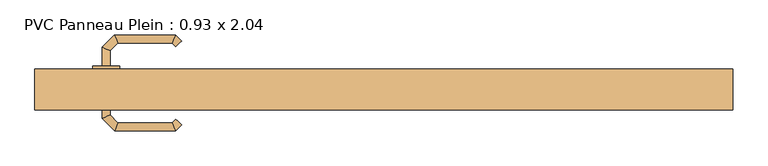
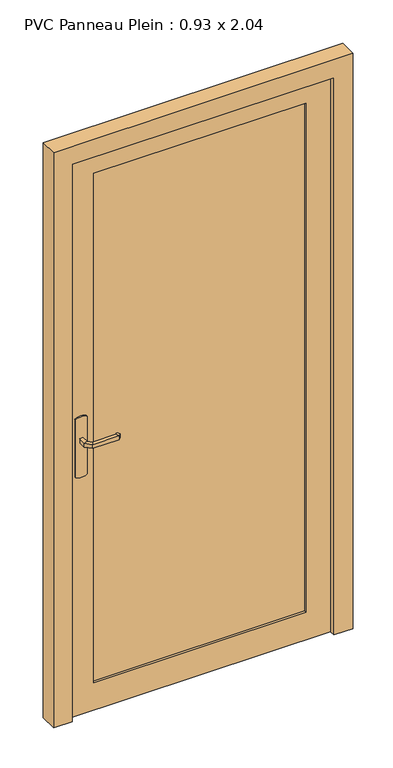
"""IFC4 building model written with IfcOpenShell, lengths in millimetres: door geometry, PVC Panneau Plein : 0.93 x 2.04."""

import ifcopenshell
import ifcopenshell.guid

model = None  # the IFC model being written
_history = None  # IfcOwnerHistory: only IFC2X3 demands one
_inside = {}  # id of a spatial element -> (the spatial element, [elements in it])
_under = {}  # id of a project, library or spatial element -> (it, [spatial elements below it])
_declared = {}  # id of a project -> (the project, [libraries it declares])
_typed = {}  # id of a type object -> (the type object, [elements of that type])
_made_of = {}  # id of a material, layer set ... -> (it, [elements and type objects made of it])


def new_model(schema):
    """Start an empty IFC model of exactly this schema.

    Asked for "IFC4X3", IfcOpenShell would pick the latest addendum, in which some entities
    have other attributes; the version numbers below select the first issue.
    IFC2X3 requires an IfcOwnerHistory on every rooted entity: one is made here for all.
    """
    global model, _history
    if schema == "IFC4X3":
        model = ifcopenshell.file(schema_version=(4, 3, 0, 0))
    else:
        model = ifcopenshell.file(schema=schema)
    _inside.clear()
    _under.clear()
    _declared.clear()
    _typed.clear()
    _made_of.clear()
    _history = None
    if model.schema == "IFC2X3":
        org = make("IfcOrganization", Name="unknown")
        user = make(
            "IfcPersonAndOrganization",
            ThePerson=make("IfcPerson", FamilyName="unknown"),
            TheOrganization=org,
        )
        app = make(
            "IfcApplication",
            ApplicationDeveloper=org,
            Version="unknown",
            ApplicationFullName="unknown",
            ApplicationIdentifier="unknown",
        )
        _history = make(
            "IfcOwnerHistory",
            OwningUser=user,
            OwningApplication=app,
            ChangeAction="ADDED",
            CreationDate=0,
        )
    return model


def make(cls, **values):
    """One entity of the class cls with the attributes given. An attribute that is None is left unset."""
    return model.create_entity(
        cls, **{name: value for name, value in values.items() if value is not None}
    )


def rooted(cls, **values):
    """An entity with a GlobalId (a new one), such as an element, a storey or a relation."""
    return make(cls, GlobalId=ifcopenshell.guid.new(), OwnerHistory=_history, **values)


def si_unit(unit_type, name, prefix=None):
    """IfcSIUnit, for example si_unit("LENGTHUNIT", "METRE", prefix="MILLI")."""
    return make("IfcSIUnit", UnitType=unit_type, Prefix=prefix, Name=name)


def assignment(units):
    """IfcUnitAssignment: the units of a project."""
    return None if units is None else make("IfcUnitAssignment", Units=units)


def point(xyz):
    """IfcCartesianPoint."""
    return None if xyz is None else make("IfcCartesianPoint", Coordinates=xyz)


def direction(xyz):
    """IfcDirection."""
    return None if xyz is None else make("IfcDirection", DirectionRatios=xyz)


def frame(location, z_axis=None, x_axis=None):
    """IfcAxis2Placement3D, a coordinate frame: its origin and axes. An axis left out is left unset."""
    return make(
        "IfcAxis2Placement3D",
        Location=point(location),
        Axis=direction(z_axis),
        RefDirection=direction(x_axis),
    )


def frame_2d(location, x_axis=None):
    """IfcAxis2Placement2D, a coordinate frame in the plane: its origin and x axis."""
    return make(
        "IfcAxis2Placement2D", Location=point(location), RefDirection=direction(x_axis)
    )


def origin():
    """The frame at (0, 0, 0) with its axes left unset."""
    return frame((0.0, 0.0, 0.0))


def place(relative_to, where):
    """IfcLocalPlacement: puts the frame where relative to a parent placement (None: the world)."""
    return make(
        "IfcLocalPlacement", PlacementRelTo=relative_to, RelativePlacement=where
    )


def context(
    kind, dimensions, precision=None, world=None, true_north=None, identifier=None
):
    """IfcGeometricRepresentationContext, for example the 3D "Model" context."""
    return make(
        "IfcGeometricRepresentationContext",
        ContextIdentifier=identifier,
        ContextType=kind,
        CoordinateSpaceDimension=dimensions,
        Precision=precision,
        WorldCoordinateSystem=world,
        TrueNorth=true_north,
    )


def project(units=None, contexts=None):
    """IfcProject with its units and contexts."""
    return rooted(
        "IfcProject",
        Name="project",
        RepresentationContexts=contexts,
        UnitsInContext=assignment(units),
    )


def spatial(cls, under=None, at=None, **own):
    """A site, building, storey or space (cls), placed at a placement, below another one or the project."""
    s = rooted(cls, ObjectPlacement=at, **own)
    if under is not None:
        _under.setdefault(under.id(), (under, []))[1].append(s)
    return s


def polyline(points):
    """IfcPolyline through the points."""
    return make("IfcPolyline", Points=[point(p) for p in points])


def circle_curve(where, radius):
    """IfcCircle in the frame where."""
    return make("IfcCircle", Position=where, Radius=radius)


def ellipse_curve(where, semi_axis1, semi_axis2):
    """IfcEllipse in the frame where."""
    return make(
        "IfcEllipse", Position=where, SemiAxis1=semi_axis1, SemiAxis2=semi_axis2
    )


def trimmed(basis, trim1, trim2, sense, master):
    """IfcTrimmedCurve: the piece of a basis curve between two trims."""
    return make(
        "IfcTrimmedCurve",
        BasisCurve=basis,
        Trim1=trim1,
        Trim2=trim2,
        SenseAgreement=sense,
        MasterRepresentation=master,
    )


def segment(curve, same_sense, transition):
    """IfcCompositeCurveSegment."""
    return make(
        "IfcCompositeCurveSegment",
        Transition=transition,
        SameSense=same_sense,
        ParentCurve=curve,
    )


def composite_curve(segments, self_intersect=None):
    """IfcCompositeCurve: segments joined end to end."""
    return make("IfcCompositeCurve", Segments=segments, SelfIntersect=self_intersect)


def outline(outer, holes=None, kind="AREA"):
    """IfcArbitraryClosedProfileDef: a profile drawn as a closed curve; with holes, ...WithVoids."""
    if holes is None:
        return make("IfcArbitraryClosedProfileDef", ProfileType=kind, OuterCurve=outer)
    return make(
        "IfcArbitraryProfileDefWithVoids",
        ProfileType=kind,
        OuterCurve=outer,
        InnerCurves=holes,
    )


def extrude(swept, where, along, depth):
    """IfcExtrudedAreaSolid: the profile swept, set in the frame where, extruded along a direction by depth."""
    return make(
        "IfcExtrudedAreaSolid",
        SweptArea=swept,
        Position=where,
        ExtrudedDirection=direction(along),
        Depth=depth,
    )


def faces_of(points, faces, orient=None, outer=None):
    """IfcFace entities. A face is a list of loops; a loop is a list of indices into points, from 0.

    orient and outer hold one flag for each loop. By default every Orientation is true, the
    first loop of a face is its IfcFaceOuterBound and the others are IfcFaceBound.
    """
    made = []
    for i, loops in enumerate(faces):
        bounds = []
        for j, loop in enumerate(loops):
            is_outer = j == 0 if outer is None else outer[i][j]
            bounds.append(
                make(
                    "IfcFaceOuterBound" if is_outer else "IfcFaceBound",
                    Bound=make("IfcPolyLoop", Polygon=[points[k] for k in loop]),
                    Orientation=True if orient is None else orient[i][j],
                )
            )
        made.append(make("IfcFace", Bounds=bounds))
    return made


def faceted_brep(points, faces, orient=None, outer=None, voids=None):
    """IfcFacetedBrep: a solid bounded by flat faces; with voids (closed shells), ...WithVoids."""
    shared = [point(p) for p in points]
    hull = make("IfcClosedShell", CfsFaces=faces_of(shared, faces, orient, outer))
    if voids is None:
        return make("IfcFacetedBrep", Outer=hull)
    return make(
        "IfcFacetedBrepWithVoids",
        Outer=hull,
        Voids=[
            make(cls, CfsFaces=faces_of(shared, fs, o, b)) for cls, fs, o, b in voids
        ],
    )


def shape(context_of_items, identifier, shape_type, items):
    """IfcShapeRepresentation: the items that make up one representation, for example the "Body"."""
    return make(
        "IfcShapeRepresentation",
        ContextOfItems=context_of_items,
        RepresentationIdentifier=identifier,
        RepresentationType=shape_type,
        Items=items,
    )


def source(mapping_origin, context_of_items, identifier, shape_type, items):
    """IfcRepresentationMap: a shape defined once, which mapped items show again and again."""
    return make(
        "IfcRepresentationMap",
        MappingOrigin=mapping_origin,
        MappedRepresentation=shape(context_of_items, identifier, shape_type, items),
    )


def transform(
    local_origin,
    x_axis=None,
    y_axis=None,
    z_axis=None,
    scale=None,
    scale2=None,
    scale3=None,
    uniform=True,
):
    """IfcCartesianTransformationOperator3D, or its non-uniform kind. x_axis, y_axis, z_axis: its Axis1, 2, 3."""
    if uniform:
        return make(
            "IfcCartesianTransformationOperator3D",
            Axis1=direction(x_axis),
            Axis2=direction(y_axis),
            LocalOrigin=point(local_origin),
            Scale=scale,
            Axis3=direction(z_axis),
        )
    return make(
        "IfcCartesianTransformationOperator3DnonUniform",
        Axis1=direction(x_axis),
        Axis2=direction(y_axis),
        LocalOrigin=point(local_origin),
        Scale=scale,
        Axis3=direction(z_axis),
        Scale2=scale2,
        Scale3=scale3,
    )


def mapped(mapping_source, mapping_target):
    """IfcMappedItem: shows the shape of a source again, moved by a transform."""
    return make(
        "IfcMappedItem", MappingSource=mapping_source, MappingTarget=mapping_target
    )


def made_of(thing, what):
    """Note that an element or type object is made of a material, layer set ...; save() writes the relation."""
    if what is not None:
        _made_of.setdefault(what.id(), (what, []))[1].append(thing)
    return thing


def element(
    cls,
    number,
    at=None,
    inside=None,
    cuts=None,
    type_object=None,
    material=None,
    context=None,
    identifier="Body",
    shape_type=None,
    held_by="IfcProductDefinitionShape",
    body=None,
    shapes=None,
    **own,
):
    """One element of the class cls, such as IfcWall. Its Tag is "e" and its number.

    at: its placement. inside: the storey or other place that contains it. cuts: it is an
    opening in that element (IfcRelVoidsElement). A single representation is given by context,
    identifier, shape_type and body (its items); several are given by shapes. held_by: the class
    of the entity that holds the representations. save() writes the other relations.
    """
    e = rooted(cls, Tag="e%d" % number, ObjectPlacement=at, **own)
    if body is not None:
        shapes = [shape(context, identifier, shape_type, body)]
    if shapes is not None:
        e.Representation = make(held_by, Representations=shapes)
    if inside is not None:
        _inside.setdefault(inside.id(), (inside, []))[1].append(e)
    if cuts is not None:
        rooted(
            "IfcRelVoidsElement", RelatingBuildingElement=cuts, RelatedOpeningElement=e
        )
    if type_object is not None:
        _typed.setdefault(type_object.id(), (type_object, []))[1].append(e)
    return made_of(e, material)


def aggregate(whole, parts):
    """IfcRelAggregates: a whole, such as a stair, and the parts it consists of."""
    return rooted("IfcRelAggregates", RelatingObject=whole, RelatedObjects=parts)


def save(model, path):
    """Write the relations noted so far, then the file.

    IfcRelAggregates (storeys below a building ...), IfcRelContainedInSpatialStructure (elements
    in a storey), IfcRelDefinesByType, IfcRelAssociatesMaterial and IfcRelDeclares: one each for
    every whole, place, type object, material and project.
    """
    for whole, parts in _under.values():
        aggregate(whole, parts)
    for where, things in _inside.values():
        rooted(
            "IfcRelContainedInSpatialStructure",
            RelatedElements=things,
            RelatingStructure=where,
        )
    for kind, things in _typed.values():
        rooted("IfcRelDefinesByType", RelatedObjects=things, RelatingType=kind)
    for what, things in _made_of.values():
        rooted("IfcRelAssociatesMaterial", RelatedObjects=things, RelatingMaterial=what)
    for by, libraries in _declared.values():
        rooted("IfcRelDeclares", RelatingContext=by, RelatedDefinitions=libraries)
    model.write(path)


def plane_surface(at):
    """IfcPlane: the flat surface through the origin of the frame at, square to its z axis."""
    return make("IfcPlane", Position=at)


def cylinder_surface(at, radius):
    """IfcCylindricalSurface: all points at the distance radius from the z axis of the frame at."""
    return make("IfcCylindricalSurface", Position=at, Radius=radius)


def advanced_brep(points, edges, surfaces, faces):
    """IfcAdvancedBrep: a solid bounded by faces that lie on surfaces and meet in shared edges.

    An edge is (start, end): straight between two places in points (the first is 0);
    or (start, end, curve); or (start, end, curve, False) where it runs against its curve.
    A face is (place in surfaces, loops), or (place, loops, False) where it looks against
    its surface's normal. A loop lists edges by number (the first is 1), with a minus sign
    where the edge is run from its end to its start. The first loop is the outer one.
    """
    corners = [point(p) for p in points]
    vertices = [make("IfcVertexPoint", VertexGeometry=c) for c in corners]
    made = []
    for start, end, *more in edges:
        made.append(
            make(
                "IfcEdgeCurve",
                EdgeStart=vertices[start],
                EdgeEnd=vertices[end],
                EdgeGeometry=more[0] if more else make("IfcPolyline", Points=[corners[start], corners[end]]),
                SameSense=more[1] if len(more) > 1 else True,
            )
        )
    hull = []
    for where, loops, *sense in faces:
        bounds = []
        for j, loop in enumerate(loops):
            ring = [make("IfcOrientedEdge", EdgeElement=made[abs(k) - 1], Orientation=k > 0) for k in loop]
            bounds.append(
                make(
                    "IfcFaceOuterBound" if j == 0 else "IfcFaceBound",
                    Bound=make("IfcEdgeLoop", EdgeList=ring),
                    Orientation=True,
                )
            )
        hull.append(make("IfcAdvancedFace", Bounds=bounds, FaceSurface=surfaces[where], SameSense=sense[0] if sense else True))
    return make("IfcAdvancedBrep", Outer=make("IfcClosedShell", CfsFaces=hull))


def pvc_panneau_plein_0_93_x_2_04_155e41a3(model_context):
    return source(origin(), model_context, "Body", "SolidModel", [
        advanced_brep(
        [(-404.0, 58.7935702, 993.0), (-416.0, 58.7935702, 993.0), (-416.0, 58.7935702, 1007.0), (-404.0, 58.7935702, 1007.0), (-404.0, 36.3083657, 1007.0), (-404.0, 36.3083657, 993.0), (-416.0, 31.337803, 1007.0), (-416.0, 31.337803, 993.0), (-392.5147186, 24.8230843, 1007.0), (-392.5147186, 24.8230843, 993.0), (-397.4852814, 12.8230843, 1007.0), (-397.4852814, 12.8230843, 993.0), (-312.4394977, 24.8230843, 1007.0), (-312.4394977, 24.8230843, 993.0), (-307.468935, 12.8230843, 1007.0), (-307.468935, 12.8230843, 993.0), (-307.1257892, 30.1367928, 993.0), (-307.1257892, 30.1367928, 1007.0), (-298.6405078, 21.6515115, 1007.0), (-298.6405078, 21.6515115, 993.0)],
        [
            (0, 1, circle_curve(frame((-410.0, 58.7935702, 1013.0457722), z_axis=(0.0, 1.0, 0.0), x_axis=(-1.0, 0.0, 0.0)), 20.9244589)),
            (1, 2),
            (2, 3, circle_curve(frame((-410.0, 58.7935702, 986.9542278), z_axis=(0.0, 1.0, 0.0), x_axis=(-1.0, 0.0, 0.0)), 20.9244589)),
            (3, 0),
            (3, 4),
            (4, 5),
            (5, 0),
            (2, 6),
            (6, 4, ellipse_curve(frame((-410.0, 33.8230843, 986.9542278), z_axis=(-0.38268343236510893, 0.9238795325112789, 0.0), x_axis=(0.9238795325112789, 0.3826834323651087, 0.0)), 22.6484711, 20.9244589)),
            (1, 7),
            (7, 6),
            (5, 7, ellipse_curve(frame((-410.0, 33.8230843, 1013.0457722), z_axis=(-0.38268343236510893, 0.9238795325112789, 0.0), x_axis=(0.9238795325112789, 0.3826834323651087, 0.0)), 22.6484711, 20.9244589)),
            (4, 8),
            (8, 9),
            (9, 5),
            (6, 10),
            (10, 8, ellipse_curve(frame((-395.0, 18.8230843, 986.9542278), z_axis=(-0.9238795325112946, 0.38268343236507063, 0.0), x_axis=(0.3826834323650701, 0.9238795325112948, 0.0)), 22.6484711, 20.9244589)),
            (7, 11),
            (11, 10),
            (9, 11, ellipse_curve(frame((-395.0, 18.8230843, 1013.0457722), z_axis=(-0.9238795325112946, 0.38268343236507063, 0.0), x_axis=(0.3826834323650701, 0.9238795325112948, 0.0)), 22.6484711, 20.9244589)),
            (8, 12),
            (12, 13),
            (13, 9),
            (10, 14),
            (14, 12, ellipse_curve(frame((-309.9542163, 18.8230843, 986.9542278), z_axis=(-0.9238795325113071, -0.38268343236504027, 0.0), x_axis=(-0.38268343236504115, 0.9238795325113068, 0.0)), 22.6484711, 20.9244589)),
            (11, 15),
            (15, 14),
            (13, 15, ellipse_curve(frame((-309.9542163, 18.8230843, 1013.0457722), z_axis=(-0.9238795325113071, -0.38268343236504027, 0.0), x_axis=(-0.38268343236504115, 0.9238795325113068, 0.0)), 22.6484711, 20.9244589)),
            (16, 17),
            (17, 18, circle_curve(frame((-302.8831485, 25.8941521, 986.9542278), z_axis=(0.7071067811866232, 0.7071067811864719, 0.0), x_axis=(0.7071067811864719, -0.7071067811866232, 0.0)), 20.9244589)),
            (18, 19),
            (19, 16, circle_curve(frame((-302.8831485, 25.8941521, 1013.0457722), z_axis=(0.7071067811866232, 0.7071067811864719, 0.0), x_axis=(0.7071067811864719, -0.7071067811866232, 0.0)), 20.9244589)),
            (12, 17),
            (16, 13),
            (14, 18),
            (15, 19),
        ],
        [
            plane_surface(frame((-419.2195445, 58.7935702, 1000.0), z_axis=(0.0, 1.0, 0.0), x_axis=(0.0, 0.0, 1.0))),
            plane_surface(frame((-404.0, 58.7935702, 993.0), z_axis=(1.0, 0.0, 0.0), x_axis=(0.0, -1.0, 0.0))),
            cylinder_surface(frame((-410.0, 58.7935702, 986.9542278), z_axis=(0.0, 1.0, 0.0), x_axis=(-1.0, 0.0, 0.0)), 20.9244589),
            plane_surface(frame((-416.0, 58.7935702, 1007.0), z_axis=(-1.0, 0.0, 0.0), x_axis=(0.0, -1.0, 0.0))),
            cylinder_surface(frame((-410.0, 58.7935702, 1013.0457722), z_axis=(0.0, 1.0, 0.0), x_axis=(-1.0, 0.0, 0.0)), 20.9244589),
            plane_surface(frame((-404.0, 36.3083657, 993.0), z_axis=(0.707106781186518, 0.707106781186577, 0.0), x_axis=(0.707106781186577, -0.707106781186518, 0.0))),
            cylinder_surface(frame((-410.0, 33.8230843, 986.9542278), z_axis=(-0.7071067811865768, 0.7071067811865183, 0.0), x_axis=(-0.7071067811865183, -0.7071067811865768, 0.0)), 20.9244589),
            plane_surface(frame((-416.0, 31.337803, 1007.0), z_axis=(-0.7071067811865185, -0.7071067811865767, 0.0), x_axis=(0.7071067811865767, -0.7071067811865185, 0.0))),
            cylinder_surface(frame((-410.0, 33.8230843, 1013.0457722), z_axis=(-0.7071067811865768, 0.7071067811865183, 0.0), x_axis=(-0.7071067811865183, -0.7071067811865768, 0.0)), 20.9244589),
            plane_surface(frame((-392.5147186, 24.8230843, 993.0), z_axis=(0.0, 1.0, 0.0), x_axis=(1.0, 0.0, 0.0))),
            cylinder_surface(frame((-395.0, 18.8230843, 986.9542278), z_axis=(-1.0, 0.0, 0.0), x_axis=(0.0, -1.0, 0.0)), 20.9244589),
            plane_surface(frame((-397.4852814, 12.8230843, 1007.0), z_axis=(0.0, -1.0, 0.0), x_axis=(1.0, 0.0, 0.0))),
            cylinder_surface(frame((-395.0, 18.8230843, 1013.0457722), z_axis=(-1.0, 0.0, 0.0), x_axis=(0.0, -1.0, 0.0)), 20.9244589),
            plane_surface(frame((-302.8831485, 25.8941521, 990.7804555), z_axis=(0.7071067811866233, 0.7071067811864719, 0.0), x_axis=(0.7071067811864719, -0.7071067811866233, 0.0))),
            plane_surface(frame((-312.4394977, 24.8230843, 993.0), z_axis=(-0.707106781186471, 0.7071067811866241, 0.0), x_axis=(0.7071067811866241, 0.707106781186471, 0.0))),
            cylinder_surface(frame((-309.9542163, 18.8230843, 986.9542278), z_axis=(-0.7071067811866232, -0.7071067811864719, 0.0), x_axis=(0.7071067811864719, -0.7071067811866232, 0.0)), 20.9244589),
            plane_surface(frame((-307.468935, 12.8230843, 1007.0), z_axis=(0.7071067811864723, -0.7071067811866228, 0.0), x_axis=(0.7071067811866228, 0.7071067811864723, 0.0))),
            cylinder_surface(frame((-309.9542163, 18.8230843, 1013.0457722), z_axis=(-0.7071067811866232, -0.7071067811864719, 0.0), x_axis=(0.7071067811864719, -0.7071067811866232, 0.0)), 20.9244589),
        ],
        [
            (0, [[1, 2, 3, 4]]),
            (1, [[5, 6, 7, -4]]),
            (2, [[8, 9, -5, -3]]),
            (3, [[10, 11, -8, -2]]),
            (4, [[-7, 12, -10, -1]]),
            (5, [[13, 14, 15, -6]]),
            (6, [[16, 17, -13, -9]]),
            (7, [[18, 19, -16, -11]]),
            (8, [[-15, 20, -18, -12]]),
            (9, [[21, 22, 23, -14]]),
            (10, [[24, 25, -21, -17]]),
            (11, [[26, 27, -24, -19]]),
            (12, [[-23, 28, -26, -20]]),
            (13, [[29, 30, 31, 32]]),
            (14, [[33, -29, 34, -22]]),
            (15, [[35, -30, -33, -25]]),
            (16, [[36, -31, -35, -27]]),
            (17, [[-34, -32, -36, -28]]),
        ],
    ),
        advanced_brep(
        [(-416.0, 108.7935702, 1007.0), (-416.0, 108.7935702, 993.0), (-404.0, 108.7935702, 993.0), (-404.0, 108.7935702, 1007.0), (-404.0, 131.4739582, 1007.0), (-416.0, 136.4445209, 1007.0), (-404.0, 131.4739582, 993.0), (-416.0, 136.4445209, 993.0), (-392.6522273, 142.8217309, 1007.0), (-397.62279, 154.8217309, 1007.0), (-392.6522273, 142.8217309, 993.0), (-397.62279, 154.8217309, 993.0), (-312.4666408, 142.8217309, 1007.0), (-307.496078, 154.8217309, 1007.0), (-312.4666408, 142.8217309, 993.0), (-307.496078, 154.8217309, 993.0), (-298.6676509, 145.9933038, 1007.0), (-307.1529323, 137.5080224, 1007.0), (-307.1529323, 137.5080224, 993.0), (-298.6676509, 145.9933038, 993.0)],
        [
            (0, 1),
            (1, 2, circle_curve(frame((-410.0, 108.7935702, 1013.0457722), z_axis=(0.0, -1.0, 0.0), x_axis=(1.0, 0.0, 0.0)), 20.9244589)),
            (2, 3),
            (3, 0, circle_curve(frame((-410.0, 108.7935702, 986.9542278), z_axis=(0.0, -1.0, 0.0), x_axis=(1.0, 0.0, 0.0)), 20.9244589)),
            (3, 4),
            (4, 5, ellipse_curve(frame((-410.0, 133.9592395, 986.9542278), z_axis=(-0.3826834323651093, -0.9238795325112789, 0.0), x_axis=(0.9238795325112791, -0.38268343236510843, 0.0)), 22.6484711, 20.9244589)),
            (5, 0),
            (2, 6),
            (6, 4),
            (1, 7),
            (7, 6, ellipse_curve(frame((-410.0, 133.9592395, 1013.0457722), z_axis=(-0.3826834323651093, -0.9238795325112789, 0.0), x_axis=(0.9238795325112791, -0.38268343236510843, 0.0)), 22.6484711, 20.9244589)),
            (5, 7),
            (4, 8),
            (8, 9, ellipse_curve(frame((-395.1375086, 148.8217309, 986.9542278), z_axis=(-0.9238795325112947, -0.38268343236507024, 0.0), x_axis=(0.3826834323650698, -0.9238795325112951, 0.0)), 22.6484711, 20.9244589)),
            (9, 5),
            (6, 10),
            (10, 8),
            (7, 11),
            (11, 10, ellipse_curve(frame((-395.1375086, 148.8217309, 1013.0457722), z_axis=(-0.9238795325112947, -0.38268343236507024, 0.0), x_axis=(0.3826834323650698, -0.9238795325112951, 0.0)), 22.6484711, 20.9244589)),
            (9, 11),
            (8, 12),
            (12, 13, ellipse_curve(frame((-309.9813594, 148.8217309, 986.9542278), z_axis=(-0.9238795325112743, 0.3826834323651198, 0.0), x_axis=(-0.38268343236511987, -0.9238795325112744, 0.0)), 22.6484711, 20.9244589)),
            (13, 9),
            (10, 14),
            (14, 12),
            (11, 15),
            (15, 14, ellipse_curve(frame((-309.9813594, 148.8217309, 1013.0457722), z_axis=(-0.9238795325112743, 0.3826834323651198, 0.0), x_axis=(-0.38268343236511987, -0.9238795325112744, 0.0)), 22.6484711, 20.9244589)),
            (13, 15),
            (16, 17, circle_curve(frame((-302.9102916, 141.7506631, 986.9542278), z_axis=(0.7071067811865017, -0.7071067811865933, 0.0), x_axis=(-0.7071067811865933, -0.7071067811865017, 0.0)), 20.9244589)),
            (17, 18),
            (18, 19, circle_curve(frame((-302.9102916, 141.7506631, 1013.0457722), z_axis=(0.7071067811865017, -0.7071067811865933, 0.0), x_axis=(-0.7071067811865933, -0.7071067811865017, 0.0)), 20.9244589)),
            (19, 16),
            (12, 17),
            (16, 13),
            (14, 18),
            (15, 19),
        ],
        [
            plane_surface(frame((-419.2195445, 108.7935702, 1000.0), z_axis=(0.0, -1.0, 0.0), x_axis=(0.0, 0.0, -1.0))),
            cylinder_surface(frame((-410.0, 108.7935702, 986.9542278), z_axis=(0.0, -1.0, 0.0), x_axis=(1.0, 0.0, 0.0)), 20.9244589),
            plane_surface(frame((-404.0, 108.7935702, 1007.0), z_axis=(1.0, 0.0, 0.0), x_axis=(0.0, 1.0, 0.0))),
            cylinder_surface(frame((-410.0, 108.7935702, 1013.0457722), z_axis=(0.0, -1.0, 0.0), x_axis=(1.0, 0.0, 0.0)), 20.9244589),
            plane_surface(frame((-416.0, 108.7935702, 993.0), z_axis=(-1.0, 0.0, 0.0), x_axis=(0.0, 1.0, 0.0))),
            cylinder_surface(frame((-410.0, 133.9592395, 986.9542278), z_axis=(-0.7071067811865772, -0.7071067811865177, 0.0), x_axis=(0.7071067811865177, -0.7071067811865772, 0.0)), 20.9244589),
            plane_surface(frame((-404.0, 131.4739582, 1007.0), z_axis=(0.7071067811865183, -0.7071067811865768, 0.0), x_axis=(0.7071067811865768, 0.7071067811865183, 0.0))),
            cylinder_surface(frame((-410.0, 133.9592395, 1013.0457722), z_axis=(-0.7071067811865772, -0.7071067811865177, 0.0), x_axis=(0.7071067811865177, -0.7071067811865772, 0.0)), 20.9244589),
            plane_surface(frame((-416.0, 136.4445209, 993.0), z_axis=(-0.707106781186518, 0.707106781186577, 0.0), x_axis=(0.707106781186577, 0.707106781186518, 0.0))),
            cylinder_surface(frame((-395.1375086, 148.8217309, 986.9542278), z_axis=(-1.0, 0.0, 0.0), x_axis=(0.0, -1.0, 0.0)), 20.9244589),
            plane_surface(frame((-392.6522273, 142.8217309, 1007.0), z_axis=(0.0, -1.0, 0.0), x_axis=(1.0, 0.0, 0.0))),
            cylinder_surface(frame((-395.1375086, 148.8217309, 1013.0457722), z_axis=(-1.0, 0.0, 0.0), x_axis=(0.0, -1.0, 0.0)), 20.9244589),
            plane_surface(frame((-397.62279, 154.8217309, 993.0), z_axis=(0.0, 1.0, 0.0), x_axis=(1.0, 0.0, 0.0))),
            plane_surface(frame((-302.9102916, 141.7506631, 1009.2195445), z_axis=(0.7071067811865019, -0.7071067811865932, 0.0), x_axis=(0.7071067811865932, 0.7071067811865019, 0.0))),
            cylinder_surface(frame((-309.9813594, 148.8217309, 986.9542278), z_axis=(-0.7071067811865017, 0.7071067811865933, 0.0), x_axis=(-0.7071067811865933, -0.7071067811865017, 0.0)), 20.9244589),
            plane_surface(frame((-312.4666408, 142.8217309, 1007.0), z_axis=(-0.7071067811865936, -0.7071067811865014, 0.0), x_axis=(0.7071067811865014, -0.7071067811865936, 0.0))),
            cylinder_surface(frame((-309.9813594, 148.8217309, 1013.0457722), z_axis=(-0.7071067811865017, 0.7071067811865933, 0.0), x_axis=(-0.7071067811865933, -0.7071067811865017, 0.0)), 20.9244589),
            plane_surface(frame((-307.496078, 154.8217309, 993.0), z_axis=(0.707106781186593, 0.7071067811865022, 0.0), x_axis=(0.7071067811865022, -0.707106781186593, 0.0))),
        ],
        [
            (0, [[1, 2, 3, 4]]),
            (1, [[5, 6, 7, -4]]),
            (2, [[8, 9, -5, -3]]),
            (3, [[10, 11, -8, -2]]),
            (4, [[-7, 12, -10, -1]]),
            (5, [[13, 14, 15, -6]]),
            (6, [[16, 17, -13, -9]]),
            (7, [[18, 19, -16, -11]]),
            (8, [[-15, 20, -18, -12]]),
            (9, [[21, 22, 23, -14]]),
            (10, [[24, 25, -21, -17]]),
            (11, [[26, 27, -24, -19]]),
            (12, [[-23, 28, -26, -20]]),
            (13, [[29, 30, 31, 32]]),
            (14, [[33, -29, 34, -22]]),
            (15, [[35, -30, -33, -25]]),
            (16, [[36, -31, -35, -27]]),
            (17, [[-34, -32, -36, -28]]),
        ],
    ),
        extrude(outline(composite_curve([segment(trimmed(circle_curve(frame_2d((1045.3589838, -410.0)), 40.0), [point((1080.0, -390.0))], [point((1080.0, -430.0))], False, "CARTESIAN"), True, "CONTINUOUS"), segment(polyline([(1080.0, -430.0), (870.0, -430.0)]), True, "CONTINUOUS"), segment(trimmed(circle_curve(frame_2d((904.6410162, -410.0)), 40.0), [point((870.0, -430.0))], [point((870.0, -390.0))], False, "CARTESIAN"), True, "CONTINUOUS"), segment(polyline([(870.0, -390.0), (1080.0, -390.0)]), True, "CONTINUOUS")], self_intersect=False)), frame((0.0, 58.7935702, 0.0), z_axis=(0.0, 1.0, 0.0), x_axis=(0.0, 0.0, 1.0)), (0.0, 0.0, 1.0), 5.0),
        extrude(outline(composite_curve([segment(trimmed(circle_curve(frame_2d((904.6410162, -410.0)), 40.0), [point((870.0, -430.0))], [point((870.0, -390.0))], False, "CARTESIAN"), True, "CONTINUOUS"), segment(polyline([(870.0, -390.0), (1080.0, -390.0)]), True, "CONTINUOUS"), segment(trimmed(circle_curve(frame_2d((1045.3589838, -410.0)), 40.0), [point((1080.0, -390.0))], [point((1080.0, -430.0))], False, "CARTESIAN"), True, "CONTINUOUS"), segment(polyline([(1080.0, -430.0), (870.0, -430.0)]), True, "CONTINUOUS")], self_intersect=False)), frame((0.0, 103.7935702, 0.0), z_axis=(0.0, 1.0, 0.0), x_axis=(0.0, 0.0, 1.0)), (0.0, 0.0, 1.0), 5.0),
        faceted_brep([(-515.0, 103.7935702, 0.0), (-465.0, 103.7935702, 0.0), (-465.0, 63.7935702, 0.0), (-450.0, 63.7935702, 0.0), (-450.0, 43.7935702, 0.0), (-515.0, 43.7935702, 0.0), (-515.0, 43.7935702, 2090.0), (-515.0, 103.7935702, 2090.0), (-450.0, 43.7935702, 2025.0), (450.0, 43.7935702, 2025.0), (450.0, 43.7935702, 0.0), (515.0, 43.7935702, 0.0), (515.0, 43.7935702, 2090.0), (-450.0, 63.7935702, 2025.0), (-465.0, 63.7935702, 2040.0), (465.0, 63.7935702, 2040.0), (465.0, 63.7935702, 0.0), (450.0, 63.7935702, 0.0), (450.0, 63.7935702, 2025.0), (-465.0, 103.7935702, 2040.0), (515.0, 103.7935702, 2090.0), (515.0, 103.7935702, 0.0), (465.0, 103.7935702, 0.0), (465.0, 103.7935702, 2040.0)], [[[0, 1, 2, 3, 4, 5]], [[5, 6, 7, 0]], [[4, 8, 9, 10, 11, 12, 6, 5]], [[3, 13, 8, 4]], [[2, 14, 15, 16, 17, 18, 13, 3]], [[1, 19, 14, 2]], [[0, 7, 20, 21, 22, 23, 19, 1]], [[11, 21, 20, 12]], [[10, 17, 16, 22, 21, 11]], [[9, 18, 17, 10]], [[15, 23, 22, 16]], [[6, 12, 20, 7]], [[8, 13, 18, 9]], [[14, 19, 23, 15]]]),
        faceted_brep([(-465.0, 103.7935702, 2040.0), (465.0, 103.7935702, 2040.0), (465.0, 103.7935702, 0.0), (-465.0, 103.7935702, 0.0), (365.0, 103.7935702, 1950.0), (-365.0, 103.7935702, 1950.0), (-365.0, 103.7935702, 100.0), (365.0, 103.7935702, 100.0), (-465.0, 63.7935702, 2040.0), (-465.0, 63.7935702, 0.0), (465.0, 63.7935702, 0.0), (465.0, 63.7935702, 2040.0), (-365.0, 63.7935702, 1950.0), (365.0, 63.7935702, 1950.0), (365.0, 63.7935702, 100.0), (-365.0, 63.7935702, 100.0), (365.0, 95.7935702, 1950.0), (365.0, 95.7935702, 100.0), (-365.0, 95.7935702, 100.0), (-365.0, 95.7935702, 1950.0), (-365.0, 71.7935702, 1950.0), (-365.0, 71.7935702, 100.0), (365.0, 71.7935702, 100.0), (365.0, 71.7935702, 1950.0)], [[[0, 1, 2, 3], [4, 5, 6, 7]], [[8, 9, 10, 11], [12, 13, 14, 15]], [[3, 9, 8, 0]], [[2, 10, 9, 3]], [[1, 11, 10, 2]], [[0, 8, 11, 1]], [[16, 17, 18, 19]], [[16, 4, 7, 17]], [[17, 7, 6, 18]], [[18, 6, 5, 19]], [[19, 5, 4, 16]], [[20, 21, 22, 23]], [[20, 12, 15, 21]], [[21, 15, 14, 22]], [[22, 14, 13, 23]], [[23, 13, 12, 20]]]),
    ])


if __name__ == "__main__":
    model = new_model("IFC4")
    model_context = context("Model", 3, world=origin())
    ifc_project = project(units=[si_unit("LENGTHUNIT", "METRE", prefix="MILLI")], contexts=[model_context])
    site = spatial("IfcSite", under=ifc_project)
    building = spatial("IfcBuilding", under=site)
    placement = place(None, origin())
    pvc_panneau_plein_0_93_x_2_04_shape = pvc_panneau_plein_0_93_x_2_04_155e41a3(model_context)
    element("IfcDoor", 1, ObjectType="PVC Panneau Plein : 0.93 x 2.04", at=placement, inside=building, context=model_context, shape_type="MappedRepresentation", body=[
        mapped(pvc_panneau_plein_0_93_x_2_04_shape, transform((0.0, 0.0, 0.0), x_axis=(1.0, 0.0, 0.0), y_axis=(0.0, 1.0, 0.0), z_axis=(0.0, 0.0, 1.0))),
    ])
    save(model, "model.ifc")
